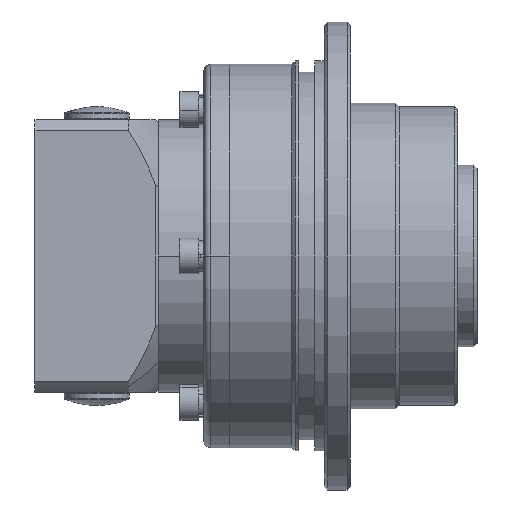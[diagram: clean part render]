
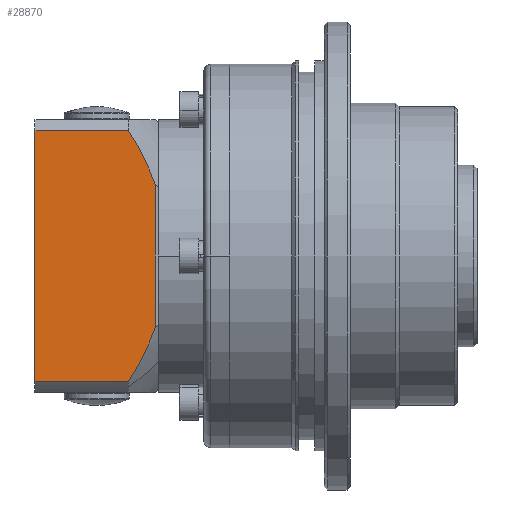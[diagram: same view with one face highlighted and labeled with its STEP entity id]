
A CAD part, front view. The second image highlights one B-rep face of the part: STEP entity #28870.
In plain terms, the highlighted planar face has unit normal (0, -1, 0).
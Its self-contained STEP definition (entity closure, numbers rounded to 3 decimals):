
#274 = ORIENTED_EDGE ( 'NONE', *, *, #26179, .T. ) ;
#810 = DIRECTION ( 'NONE',  ( 0., 0., 1. ) ) ;
#2754 = CARTESIAN_POINT ( 'NONE',  ( -30., -21., -19.268 ) ) ;
#3240 = VERTEX_POINT ( 'NONE', #5468 ) ;
#3291 = CIRCLE ( 'NONE', #29230, 34.044 ) ;
#3564 = CARTESIAN_POINT ( 'NONE',  ( -43.726, -21., 0. ) ) ;
#5468 = CARTESIAN_POINT ( 'NONE',  ( -15.659, -21., -19.268 ) ) ;
#5589 = EDGE_CURVE ( 'NONE', #32112, #32242, #3291, .T. ) ;
#5962 = ORIENTED_EDGE ( 'NONE', *, *, #29116, .F. ) ;
#6153 = DIRECTION ( 'NONE',  ( 0., 0., 1. ) ) ;
#7873 = FACE_OUTER_BOUND ( 'NONE', #29485, .T. ) ;
#8165 = LINE ( 'NONE', #26480, #14967 ) ;
#8539 = DIRECTION ( 'NONE',  ( 0., 0., -1. ) ) ;
#8778 = VERTEX_POINT ( 'NONE', #23481 ) ;
#9366 = CARTESIAN_POINT ( 'NONE',  ( -11., -21., -21. ) ) ;
#9789 = AXIS2_PLACEMENT_3D ( 'NONE', #3564, #21479, #6153 ) ;
#9871 = EDGE_CURVE ( 'NONE', #8778, #32242, #32782, .T. ) ;
#10172 = VECTOR ( 'NONE', #30790, 1000. ) ;
#10468 = AXIS2_PLACEMENT_3D ( 'NONE', #9366, #27295, #11974 ) ;
#11286 = VECTOR ( 'NONE', #28603, 1000. ) ;
#11974 = DIRECTION ( 'NONE',  ( 0., 0., 1. ) ) ;
#12072 = LINE ( 'NONE', #31180, #11286 ) ;
#12078 = CARTESIAN_POINT ( 'NONE',  ( -43.726, -21., 0. ) ) ;
#12488 = ORIENTED_EDGE ( 'NONE', *, *, #31875, .T. ) ;
#13281 = EDGE_CURVE ( 'NONE', #3240, #25552, #12072, .T. ) ;
#14647 = DIRECTION ( 'NONE',  ( 0., 0., 1. ) ) ;
#14967 = VECTOR ( 'NONE', #8539, 1000. ) ;
#16157 = CARTESIAN_POINT ( 'NONE',  ( -11.5, -21., 9.381 ) ) ;
#18034 = CARTESIAN_POINT ( 'NONE',  ( 3., -21., 19.268 ) ) ;
#19169 = VECTOR ( 'NONE', #810, 1000. ) ;
#21479 = DIRECTION ( 'NONE',  ( 0., 1., 0. ) ) ;
#22791 = ORIENTED_EDGE ( 'NONE', *, *, #13281, .F. ) ;
#22836 = CARTESIAN_POINT ( 'NONE',  ( -11.5, -21., 10.976 ) ) ;
#23481 = CARTESIAN_POINT ( 'NONE',  ( -11.5, -21., -10.976 ) ) ;
#24384 = VERTEX_POINT ( 'NONE', #27450 ) ;
#24727 = PLANE ( 'NONE',  #10468 ) ;
#25552 = VERTEX_POINT ( 'NONE', #2754 ) ;
#26179 = EDGE_CURVE ( 'NONE', #32112, #24384, #29784, .T. ) ;
#26480 = CARTESIAN_POINT ( 'NONE',  ( -30., -21., -21. ) ) ;
#27295 = DIRECTION ( 'NONE',  ( 0., 1., 0. ) ) ;
#27450 = CARTESIAN_POINT ( 'NONE',  ( -30., -21., 19.268 ) ) ;
#28603 = DIRECTION ( 'NONE',  ( -1., 0., 0. ) ) ;
#28870 = ADVANCED_FACE ( 'NONE', ( #7873 ), #24727, .F. ) ;
#29116 = EDGE_CURVE ( 'NONE', #8778, #3240, #30284, .T. ) ;
#29230 = AXIS2_PLACEMENT_3D ( 'NONE', #12078, #29996, #14647 ) ;
#29485 = EDGE_LOOP ( 'NONE', ( #5962, #29941, #29573, #274, #12488, #22791 ) ) ;
#29573 = ORIENTED_EDGE ( 'NONE', *, *, #5589, .F. ) ;
#29784 = LINE ( 'NONE', #18034, #10172 ) ;
#29911 = CARTESIAN_POINT ( 'NONE',  ( -15.659, -21., 19.268 ) ) ;
#29941 = ORIENTED_EDGE ( 'NONE', *, *, #9871, .T. ) ;
#29996 = DIRECTION ( 'NONE',  ( 0., 1., 0. ) ) ;
#30284 = CIRCLE ( 'NONE', #9789, 34.044 ) ;
#30790 = DIRECTION ( 'NONE',  ( -1., 0., 0. ) ) ;
#31180 = CARTESIAN_POINT ( 'NONE',  ( 3., -21., -19.268 ) ) ;
#31875 = EDGE_CURVE ( 'NONE', #24384, #25552, #8165, .T. ) ;
#32112 = VERTEX_POINT ( 'NONE', #29911 ) ;
#32242 = VERTEX_POINT ( 'NONE', #22836 ) ;
#32782 = LINE ( 'NONE', #16157, #19169 ) ;
